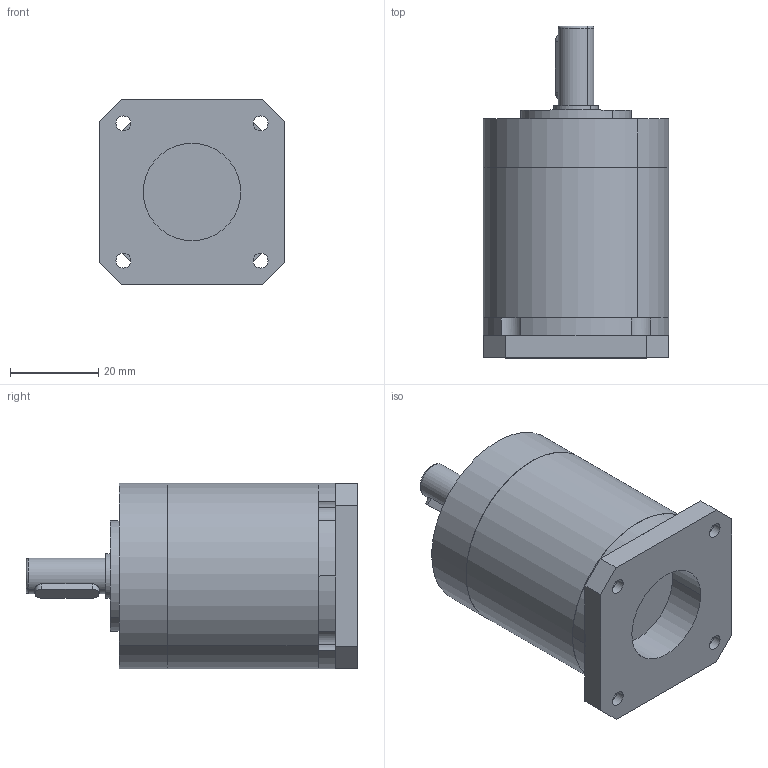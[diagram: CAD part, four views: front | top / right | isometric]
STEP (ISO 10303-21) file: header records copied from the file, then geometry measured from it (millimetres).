
FILE_DESCRIPTION (( 'STEP AP203' ), '1' );
FILE_NAME ('link2.STEP', '2026-09-19T09:37:05', ( '' ), ( '' ), 'SwSTEP 2.0', 'SolidWorks 2026', '' );
FILE_SCHEMA (( 'CONFIG_CONTROL_DESIGN' ));
Length unit declared in the file: millimetre
Products named in the file (6): 42XG二级减速.STEP; link2; 42XG二级减速; 42XG______.STEP; 42XG____.STEP; 42XG______-0.STEP
Assembly tree (5 placements, depth 4):
  link2
    42XG二级减速
      42XG二级减速.STEP
        42XG____.STEP
        42XG______.STEP
        42XG______-0.STEP
Bounding box: 42 x 75 x 42 mm (x, y, z)
Volume: 73819.7 mm3; surface area: 18042.1 mm2
Topology: 3 solids, 3 shells, 300 faces, 818 edges, 532 vertices
Faces by surface type: cylinder 241, plane 42, bspline 15, torus 2
Entity records: 20749 total; most frequent: CARTESIAN_POINT 13685, ORIENTED_EDGE 1636, DIRECTION 1111, EDGE_CURVE 818, VERTEX_POINT 532, AXIS2_PLACEMENT_3D 402, EDGE_LOOP 318, LINE 307
